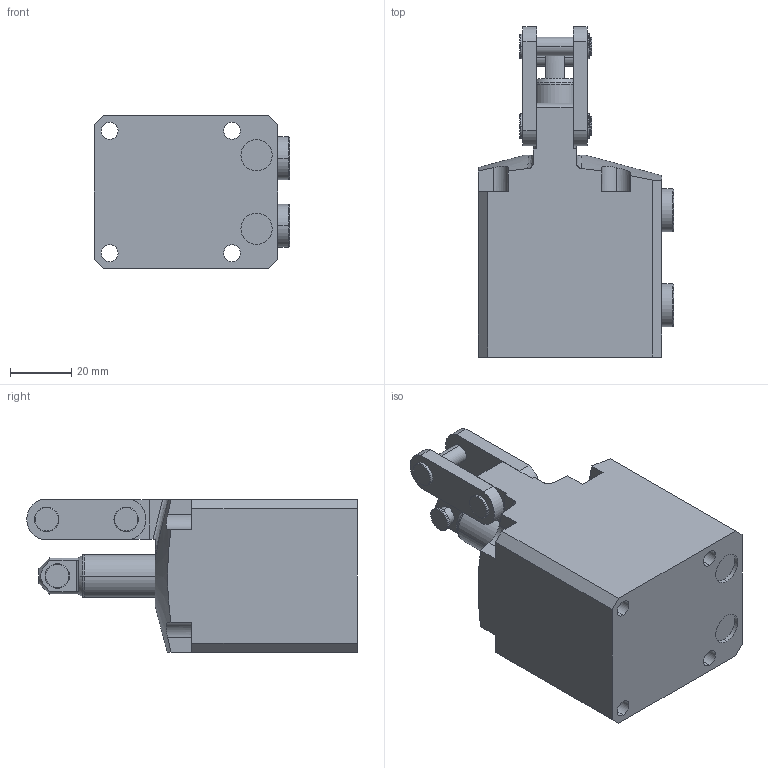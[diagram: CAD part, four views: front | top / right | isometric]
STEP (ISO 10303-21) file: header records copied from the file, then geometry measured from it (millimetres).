
FILE_DESCRIPTION(/* description */ (''),/* implementation_level */ '2;1');
FILE_NAME(/* name */ 'BPC04-L.stp',/* time_stamp */ '2025-01-05T10:04:27+08:00',/* author */ (''),/* organization */ (''),/* preprocessor_version */ 'ST-DEVELOPER v16.7',/* originating_system */ 'SIEMENS PLM Software NX 12.0',/* authorisation */ '');
FILE_SCHEMA (('AUTOMOTIVE_DESIGN { 1 0 10303 214 3 1 1 1 }'));
Length unit declared in the file: millimetre
Products named in the file (5): BPC04-L-01; BPC04-L-03; BPC04-L-02; BPC04-L-04; BPC04-L_stp
Assembly tree (5 placements, depth 2):
  BPC04-L_stp
    BPC04-L-04  x2
    BPC04-L-02
    BPC04-L-03
    BPC04-L-01
Bounding box: 63.8 x 107.97 x 50 mm (x, y, z)
Volume: 189701.7 mm3; surface area: 32568.2 mm2
Topology: 5 solids, 5 shells, 269 faces, 671 edges, 432 vertices
Faces by surface type: plane 120, cylinder 109, torus 20, cone 18, bspline 2
Entity records: 7863 total; most frequent: CARTESIAN_POINT 1625, DIRECTION 1333, ORIENTED_EDGE 1250, EDGE_CURVE 625, AXIS2_PLACEMENT_3D 502, VERTEX_POINT 404, LINE 329, VECTOR 329
